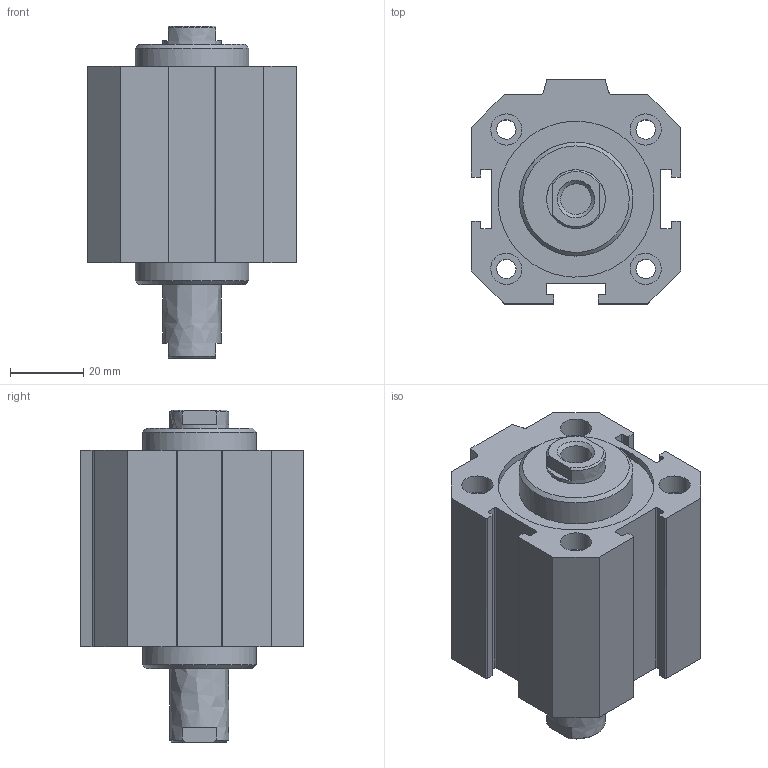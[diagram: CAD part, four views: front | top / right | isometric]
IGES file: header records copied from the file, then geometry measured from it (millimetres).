
Global section: file name: 1514_40_0015; native system: Autodesk Inventor 2014; preprocessor: unknown; author: A. Manieri; date: 20160824.120201; units: millimetre
Bounding box: 57 x 61 x 90.5 mm (x, y, z)
Volume: 142694.6 mm3; surface area: 42675.7 mm2
Topology: 2 solids, 2 shells, 130 faces, 339 edges, 233 vertices
Faces by surface type: bspline 130
